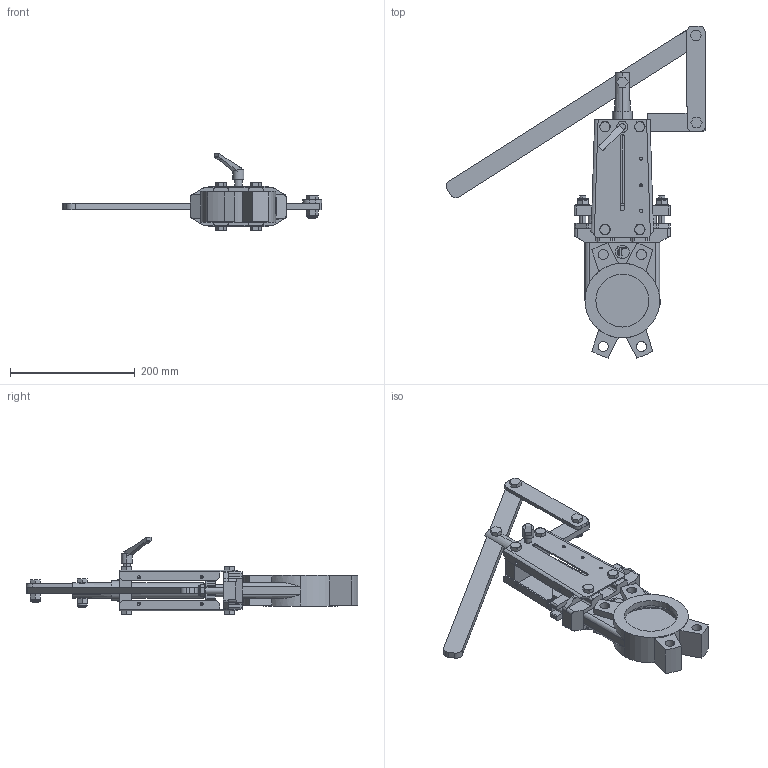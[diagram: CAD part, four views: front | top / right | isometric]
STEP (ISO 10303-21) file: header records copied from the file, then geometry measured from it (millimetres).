
FILE_DESCRIPTION (( 'STEP AP203' ), '1' );
FILE_NAME ('VG L DN80.STEP', '2012-10-03T12:19:04', ( '' ), ( '' ), 'SwSTEP 2.0', 'SolidWorks 2011', '' );
FILE_SCHEMA (( 'CONFIG_CONTROL_DESIGN' ));
Length unit declared in the file: millimetre
Products named in the file (1): VG L DN80
Bounding box: 416.92 x 533.19 x 124.68 mm (x, y, z)
Volume: 1371502.3 mm3; surface area: 335204.3 mm2
Topology: 2 solids, 5 shells, 789 faces, 2114 edges, 1374 vertices
Faces by surface type: plane 416, cylinder 200, cone 121, bspline 42, torus 10
Entity records: 27773 total; most frequent: CARTESIAN_POINT 8206, ORIENTED_EDGE 4228, DIRECTION 3833, EDGE_CURVE 2114, VERTEX_POINT 1374, AXIS2_PLACEMENT_3D 1327, VECTOR 1179, LINE 1179
